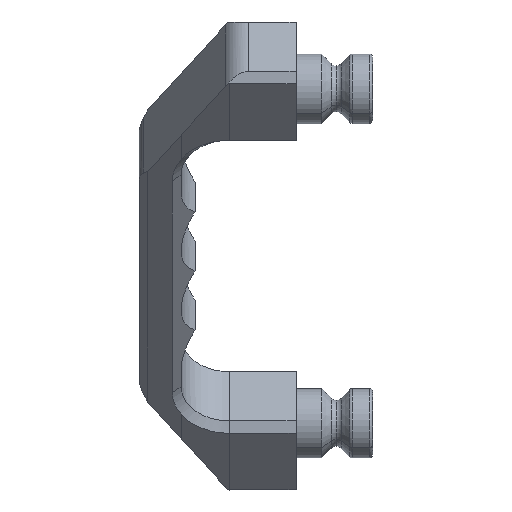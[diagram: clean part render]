
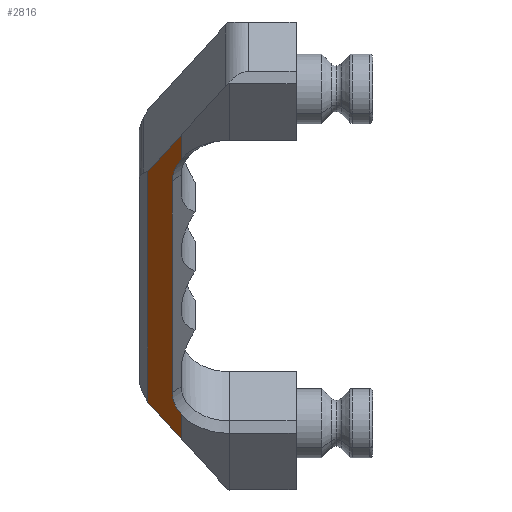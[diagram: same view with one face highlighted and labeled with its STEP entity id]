
A CAD part, left-side view. The second image highlights one B-rep face of the part: STEP entity #2816.
In plain terms, the highlighted planar face has unit normal (-0.707, 0, -0.707).
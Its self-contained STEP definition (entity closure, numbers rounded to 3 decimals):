
#34 = CARTESIAN_POINT ( 'NONE',  ( 51.262, 35.499, -68.939 ) ) ;
#45 = DIRECTION ( 'NONE',  ( -0.707, 0., -0.707 ) ) ;
#86 = DIRECTION ( 'NONE',  ( 0.707, 0., -0.707 ) ) ;
#161 = EDGE_CURVE ( 'NONE', #2787, #2865, #3692, .T. ) ;
#168 = DIRECTION ( 'NONE',  ( -0.707, 0., 0.707 ) ) ;
#188 = CARTESIAN_POINT ( 'NONE',  ( 48.67, 20.273, -66.346 ) ) ;
#250 = CARTESIAN_POINT ( 'NONE',  ( 24.286, 42.499, -41.962 ) ) ;
#265 = ORIENTED_EDGE ( 'NONE', *, *, #1934, .F. ) ;
#325 = CARTESIAN_POINT ( 'NONE',  ( 51.262, 42.499, -68.939 ) ) ;
#369 = DIRECTION ( 'NONE',  ( 0.707, 0., -0.707 ) ) ;
#410 = DIRECTION ( 'NONE',  ( 0.707, 0., -0.707 ) ) ;
#526 = VECTOR ( 'NONE', #410, 1000. ) ;
#633 = PLANE ( 'NONE',  #2117 ) ;
#671 = CARTESIAN_POINT ( 'NONE',  ( 51.262, 33., -68.939 ) ) ;
#731 = CARTESIAN_POINT ( 'NONE',  ( -41.962, 42.499, 24.286 ) ) ;
#759 = EDGE_LOOP ( 'NONE', ( #3286, #3602, #983, #1565, #2831, #265, #2615, #3601, #1971 ) ) ;
#799 = DIRECTION ( 'NONE',  ( 0.707, 0., 0.707 ) ) ;
#816 = DIRECTION ( 'NONE',  ( 0.707, 0., -0.707 ) ) ;
#921 = CIRCLE ( 'NONE', #3753, 16.497 ) ;
#983 = ORIENTED_EDGE ( 'NONE', *, *, #2936, .F. ) ;
#1038 = CARTESIAN_POINT ( 'NONE',  ( 21.564, 19., -39.24 ) ) ;
#1292 = EDGE_CURVE ( 'NONE', #3500, #2865, #2740, .T. ) ;
#1309 = VECTOR ( 'NONE', #369, 1000. ) ;
#1380 = CARTESIAN_POINT ( 'NONE',  ( 51.262, 33., -68.939 ) ) ;
#1423 = LINE ( 'NONE', #1749, #1309 ) ;
#1546 = CARTESIAN_POINT ( 'NONE',  ( 21.564, 35.499, -39.24 ) ) ;
#1565 = ORIENTED_EDGE ( 'NONE', *, *, #1696, .F. ) ;
#1650 = DIRECTION ( 'NONE',  ( 0., -1., 0. ) ) ;
#1696 = EDGE_CURVE ( 'NONE', #2341, #3089, #4007, .T. ) ;
#1749 = CARTESIAN_POINT ( 'NONE',  ( 51.262, 42.499, -68.939 ) ) ;
#1831 = EDGE_CURVE ( 'NONE', #1964, #2341, #3037, .T. ) ;
#1843 = LINE ( 'NONE', #3327, #2110 ) ;
#1902 = CARTESIAN_POINT ( 'NONE',  ( 34.707, 33., -52.383 ) ) ;
#1919 = CARTESIAN_POINT ( 'NONE',  ( 27.734, 33., -45.411 ) ) ;
#1934 = EDGE_CURVE ( 'NONE', #4110, #1964, #2353, .T. ) ;
#1964 = VERTEX_POINT ( 'NONE', #2909 ) ;
#1971 = ORIENTED_EDGE ( 'NONE', *, *, #1292, .T. ) ;
#2110 = VECTOR ( 'NONE', #3047, 1000. ) ;
#2112 = EDGE_CURVE ( 'NONE', #2189, #3500, #1423, .T. ) ;
#2117 = AXIS2_PLACEMENT_3D ( 'NONE', #325, #799, #816 ) ;
#2189 = VERTEX_POINT ( 'NONE', #731 ) ;
#2270 = VECTOR ( 'NONE', #4138, 1000. ) ;
#2299 = VECTOR ( 'NONE', #3412, 1000. ) ;
#2341 = VERTEX_POINT ( 'NONE', #4252 ) ;
#2353 = LINE ( 'NONE', #1380, #2299 ) ;
#2615 = ORIENTED_EDGE ( 'NONE', *, *, #3676, .T. ) ;
#2740 = LINE ( 'NONE', #188, #3100 ) ;
#2787 = VERTEX_POINT ( 'NONE', #1919 ) ;
#2816 = ADVANCED_FACE ( 'NONE', ( #3103 ), #633, .F. ) ;
#2831 = ORIENTED_EDGE ( 'NONE', *, *, #1831, .F. ) ;
#2865 = VERTEX_POINT ( 'NONE', #1902 ) ;
#2909 = CARTESIAN_POINT ( 'NONE',  ( -45.419, 33., 27.743 ) ) ;
#2918 = CARTESIAN_POINT ( 'NONE',  ( -39.247, 19., 21.571 ) ) ;
#2936 = EDGE_CURVE ( 'NONE', #3089, #4198, #1843, .T. ) ;
#2955 = DIRECTION ( 'NONE',  ( -0.707, 0., -0.707 ) ) ;
#2994 = EDGE_CURVE ( 'NONE', #4198, #2787, #921, .T. ) ;
#3017 = CARTESIAN_POINT ( 'NONE',  ( -52.383, 33., 34.707 ) ) ;
#3035 = CARTESIAN_POINT ( 'NONE',  ( 21.564, 35.497, -39.24 ) ) ;
#3037 = CIRCLE ( 'NONE', #4091, 16.498 ) ;
#3047 = DIRECTION ( 'NONE',  ( 0., -1., 0. ) ) ;
#3089 = VERTEX_POINT ( 'NONE', #1546 ) ;
#3100 = VECTOR ( 'NONE', #4033, 1000. ) ;
#3103 = FACE_OUTER_BOUND ( 'NONE', #759, .T. ) ;
#3286 = ORIENTED_EDGE ( 'NONE', *, *, #161, .F. ) ;
#3327 = CARTESIAN_POINT ( 'NONE',  ( 21.564, 44.626, -39.24 ) ) ;
#3412 = DIRECTION ( 'NONE',  ( 0.707, 0., -0.707 ) ) ;
#3500 = VERTEX_POINT ( 'NONE', #250 ) ;
#3601 = ORIENTED_EDGE ( 'NONE', *, *, #2112, .T. ) ;
#3602 = ORIENTED_EDGE ( 'NONE', *, *, #2994, .F. ) ;
#3676 = EDGE_CURVE ( 'NONE', #4110, #2189, #3928, .T. ) ;
#3692 = LINE ( 'NONE', #671, #526 ) ;
#3753 = AXIS2_PLACEMENT_3D ( 'NONE', #1038, #45, #168 ) ;
#3912 = VECTOR ( 'NONE', #86, 1000. ) ;
#3928 = LINE ( 'NONE', #4127, #2270 ) ;
#4007 = LINE ( 'NONE', #34, #3912 ) ;
#4033 = DIRECTION ( 'NONE',  ( 0.594, -0.542, -0.594 ) ) ;
#4091 = AXIS2_PLACEMENT_3D ( 'NONE', #2918, #2955, #1650 ) ;
#4110 = VERTEX_POINT ( 'NONE', #3017 ) ;
#4127 = CARTESIAN_POINT ( 'NONE',  ( -40.64, 43.704, 22.963 ) ) ;
#4138 = DIRECTION ( 'NONE',  ( 0.594, 0.542, -0.594 ) ) ;
#4198 = VERTEX_POINT ( 'NONE', #3035 ) ;
#4252 = CARTESIAN_POINT ( 'NONE',  ( -39.247, 35.498, 21.571 ) ) ;
